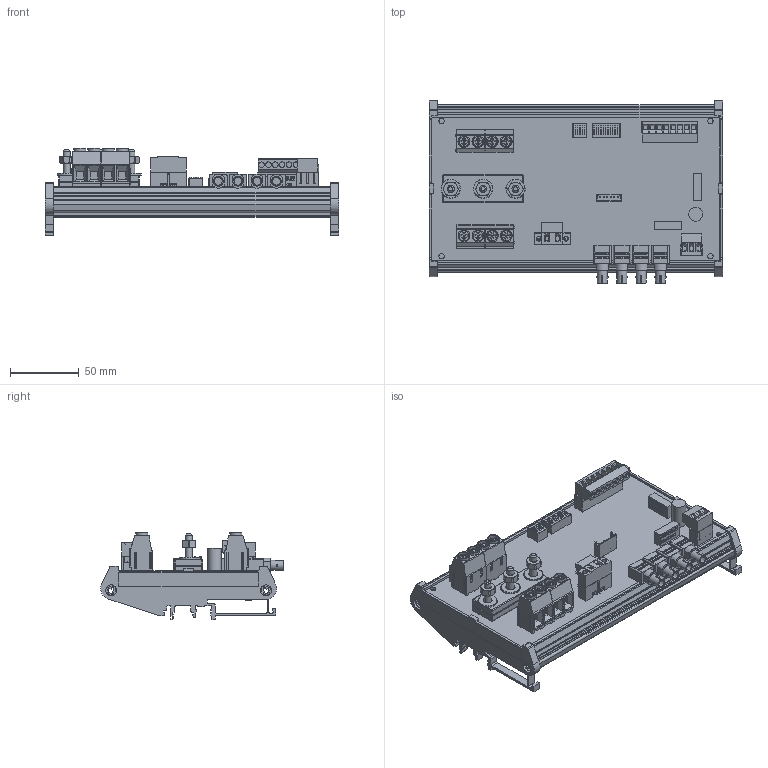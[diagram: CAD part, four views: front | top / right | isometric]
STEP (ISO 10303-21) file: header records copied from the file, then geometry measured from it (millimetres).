
FILE_DESCRIPTION(('FreeCAD Model'),'2;1');
FILE_NAME('C:/3D Files/Stringhe/ST0N/ST0N0825 DR/ST0N0825 DR.step', '2021-01-29T09:31:47',('Author'),(''), 'Open CASCADE STEP processor 7.2','FreeCAD','Unknown');
FILE_SCHEMA(('AUTOMOTIVE_DESIGN { 1 0 10303 214 1 1 1 1 }'));
Length unit declared in the file: millimetre
Products named in the file (35): ST0N0825_DR; Mstb_3P_F; Mstb_3Pc_M; AmpModu_6P_M; DipSwitch8; DipSwitch4; Dado6MA003; Dado6MA004; Dado6MA005; Rondella007; Rondella008; Rondella009; CH_01-02; CH_03-04; CH_05-06; CH_07-08; CN3_M; CN3_F; IB2405LS-1W; ELNA_470_uF_35_V; VTBSE-6x031; VTBSE-6x032; VTBSE-6x033; Mstb_8P_F; Mstb_8Pc_M; IB2405LS-1W001; Barra_5.83_cm; Barra_5.83_cm001; Barra_5.83_cm002; Stampato_208,9_x_108; Profilo_213x128; HFBR-x41xTZ001; HFBR-x41xTZ002; HFBR-x41xTZ003; HFBR-x41xTZ004
Assembly tree (34 placements, depth 2):
  ST0N0825_DR
    Mstb_3P_F
    Mstb_3Pc_M
    AmpModu_6P_M
    DipSwitch8
    DipSwitch4
    Dado6MA003
    Dado6MA004
    Dado6MA005
    Rondella007
    Rondella008
    Rondella009
    CH_01-02
    CH_03-04
    CH_05-06
    CH_07-08
    CN3_M
    CN3_F
    IB2405LS-1W
    ELNA_470_uF_35_V
    VTBSE-6x031
    VTBSE-6x032
    VTBSE-6x033
    Mstb_8P_F
    Mstb_8Pc_M
    IB2405LS-1W001
    Barra_5.83_cm
    Barra_5.83_cm001
    Barra_5.83_cm002
    Stampato_208,9_x_108
    Profilo_213x128
    HFBR-x41xTZ001
    HFBR-x41xTZ002
    HFBR-x41xTZ003
    HFBR-x41xTZ004
Bounding box: 213 x 132.51 x 63.19 mm (x, y, z)
Volume: 203974.5 mm3; surface area: 219303.8 mm2
Topology: 104 solids, 220 shells, 3353 faces, 16435 edges, 33152 vertices
Faces by surface type: plane 2435, cylinder 628, bspline 136, cone 69, torus 51, sphere 32, extrusion 2
Full cylindrical faces by diameter (mm): 0.5 x40, 0.75 x36, 1 x10, 1.5 x11, 1.6 x2, 1.8 x2, 2.05 x2, 2.5 x2, 3.3 x2, 3.5 x2, 3.8 x2, 4 x19, 4.3 x4, 4.917 x3, 5 x6, 5.6 x4, 6.6 x3, 7 x9, 7.1 x4, 7.2 x8, 7.5 x8, 7.9 x4, 8.66 x8, 9.202 x4, 10 x4, 14 x3
Entity records: 322976 total; most frequent: CARTESIAN_POINT 85724, DIRECTION 39098, VECTOR 25585, LINE 25583, ORIENTED_EDGE 17840, PCURVE 17840, DEFINITIONAL_REPRESENTATION 17840, EDGE_CURVE 9757
